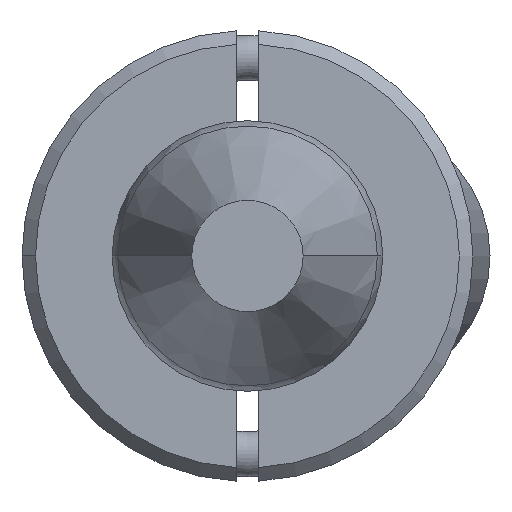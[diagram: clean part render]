
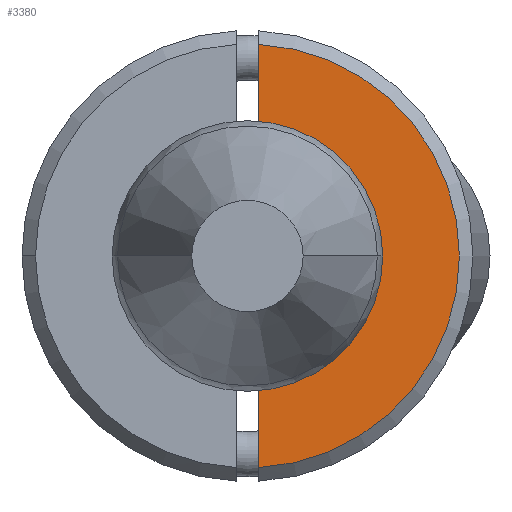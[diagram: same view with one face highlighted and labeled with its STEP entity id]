
A CAD part, front view. The second image highlights one B-rep face of the part: STEP entity #3380.
In plain terms, the highlighted planar face has unit normal (0, -1, 0).
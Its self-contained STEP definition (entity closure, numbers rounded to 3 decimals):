
#167 = CARTESIAN_POINT ( 'NONE',  ( -4.693, -6., -0.25 ) ) ;
#187 = ORIENTED_EDGE ( 'NONE', *, *, #2892, .F. ) ;
#243 = AXIS2_PLACEMENT_3D ( 'NONE', #1703, #2953, #538 ) ;
#280 = DIRECTION ( 'NONE',  ( 1., 0., 0. ) ) ;
#375 = CIRCLE ( 'NONE', #243, 4.7 ) ;
#433 = AXIS2_PLACEMENT_3D ( 'NONE', #3193, #1089, #2017 ) ;
#538 = DIRECTION ( 'NONE',  ( 0., 0., -1. ) ) ;
#589 = ORIENTED_EDGE ( 'NONE', *, *, #3510, .T. ) ;
#621 = CARTESIAN_POINT ( 'NONE',  ( 0., -6., 0. ) ) ;
#718 = VERTEX_POINT ( 'NONE', #1578 ) ;
#830 = FACE_OUTER_BOUND ( 'NONE', #1336, .T. ) ;
#933 = DIRECTION ( 'NONE',  ( 0., 1., 0. ) ) ;
#937 = EDGE_CURVE ( 'NONE', #2151, #2102, #1730, .T. ) ;
#1044 = ORIENTED_EDGE ( 'NONE', *, *, #937, .F. ) ;
#1089 = DIRECTION ( 'NONE',  ( 0., -1., 0. ) ) ;
#1092 = CARTESIAN_POINT ( 'NONE',  ( -5., -6., -0.25 ) ) ;
#1189 = CARTESIAN_POINT ( 'NONE',  ( -5., -6., -0.25 ) ) ;
#1336 = EDGE_LOOP ( 'NONE', ( #187, #2744, #1044, #1564, #589 ) ) ;
#1564 = ORIENTED_EDGE ( 'NONE', *, *, #2452, .T. ) ;
#1578 = CARTESIAN_POINT ( 'NONE',  ( 0., -6., -2.45 ) ) ;
#1637 = VECTOR ( 'NONE', #280, 1000. ) ;
#1703 = CARTESIAN_POINT ( 'NONE',  ( 0., -6., 0. ) ) ;
#1730 = LINE ( 'NONE', #1189, #1637 ) ;
#1895 = VERTEX_POINT ( 'NONE', #3581 ) ;
#1953 = CARTESIAN_POINT ( 'NONE',  ( 4.693, -6., -0.25 ) ) ;
#1993 = LINE ( 'NONE', #1092, #3724 ) ;
#2011 = CARTESIAN_POINT ( 'NONE',  ( 2.437, -6., -0.25 ) ) ;
#2017 = DIRECTION ( 'NONE',  ( 0., 0., -1. ) ) ;
#2102 = VERTEX_POINT ( 'NONE', #1953 ) ;
#2151 = VERTEX_POINT ( 'NONE', #2011 ) ;
#2179 = CARTESIAN_POINT ( 'NONE',  ( 0., -6., 0. ) ) ;
#2452 = EDGE_CURVE ( 'NONE', #2151, #718, #3695, .T. ) ;
#2454 = DIRECTION ( 'NONE',  ( 0., 0., -1. ) ) ;
#2570 = PLANE ( 'NONE',  #433 ) ;
#2744 = ORIENTED_EDGE ( 'NONE', *, *, #3709, .T. ) ;
#2892 = EDGE_CURVE ( 'NONE', #3223, #1895, #1993, .T. ) ;
#2953 = DIRECTION ( 'NONE',  ( 0., -1., 0. ) ) ;
#2996 = DIRECTION ( 'NONE',  ( 0., 1., 0. ) ) ;
#3072 = AXIS2_PLACEMENT_3D ( 'NONE', #2179, #933, #3389 ) ;
#3193 = CARTESIAN_POINT ( 'NONE',  ( -5., -6., 0. ) ) ;
#3223 = VERTEX_POINT ( 'NONE', #167 ) ;
#3380 = ADVANCED_FACE ( 'NONE', ( #830 ), #2570, .T. ) ;
#3389 = DIRECTION ( 'NONE',  ( 0., 0., -1. ) ) ;
#3510 = EDGE_CURVE ( 'NONE', #718, #1895, #3671, .T. ) ;
#3524 = DIRECTION ( 'NONE',  ( 1., 0., 0. ) ) ;
#3538 = AXIS2_PLACEMENT_3D ( 'NONE', #621, #2996, #2454 ) ;
#3581 = CARTESIAN_POINT ( 'NONE',  ( -2.437, -6., -0.25 ) ) ;
#3671 = CIRCLE ( 'NONE', #3538, 2.45 ) ;
#3695 = CIRCLE ( 'NONE', #3072, 2.45 ) ;
#3709 = EDGE_CURVE ( 'NONE', #3223, #2102, #375, .T. ) ;
#3724 = VECTOR ( 'NONE', #3524, 1000. ) ;
